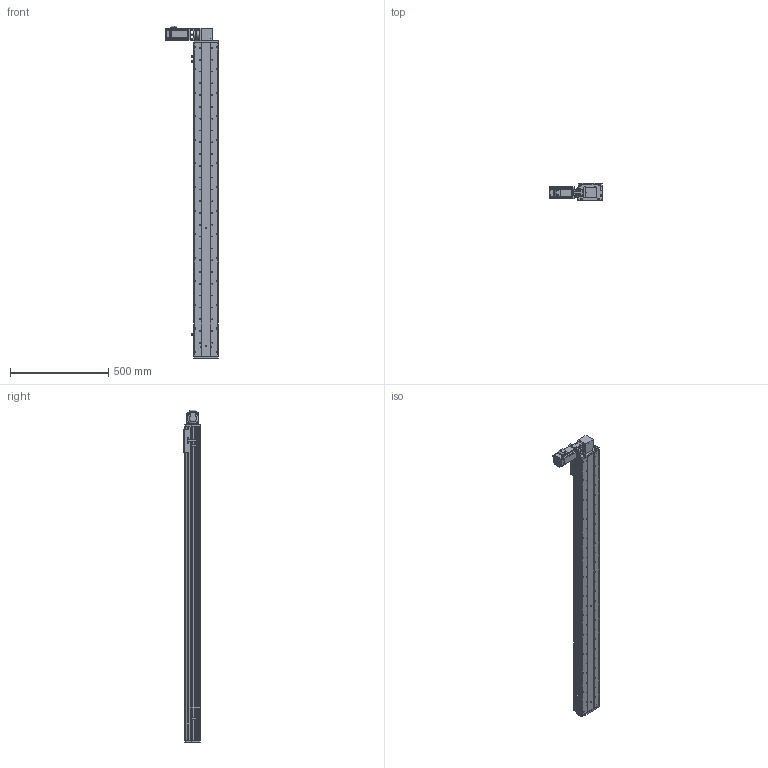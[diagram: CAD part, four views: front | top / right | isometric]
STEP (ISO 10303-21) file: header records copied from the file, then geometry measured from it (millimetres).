
FILE_DESCRIPTION (( 'STEP AP214' ), '1' );
FILE_NAME ('KSD125B-S1400-MRT-CM.STEP', '2017-08-07T07:45:01', ( '微软用户' ), ( '微软中国' ), 'SwSTEP 2.0', 'SolidWorks 2014', '' );
FILE_SCHEMA (( 'AUTOMOTIVE_DESIGN' ));
Length unit declared in the file: millimetre
Products named in the file (16): 100宽马达安装板同步带右; 前端板-125宽模组同步带; 125模组同步带-尾端板1; KSD125模组同步带-滑动座1; KSD125B-S1400-MRT-CM; KSD125模组1400行程同步带-防尘盖; 125模组1400行程同步带-底板; MHMD042G1CA_2_03; KSD125模组同步带-防撞垫2; CS-34X32-10X14; 100遵鎮湛假蚾啣1 ; 覜茼え68遵圉猾敕; U倰嫖萇假蚾璃; U倰嫖萇EEㄜSX672; KSD125模组同步带-防撞垫1; 100宽安装板同步带带电机座400W,86
Assembly tree (19 placements, depth 2):
  KSD125B-S1400-MRT-CM
    KSD125模组同步带-滑动座1
    125模组同步带-尾端板1
    前端板-125宽模组同步带
    100宽马达安装板同步带右
    100宽安装板同步带带电机座400W,86
    KSD125模组同步带-防撞垫1
    U倰嫖萇EEㄜSX672  x3
    U倰嫖萇假蚾璃  x3
    覜茼え68遵圉猾敕
    100遵鎮湛假蚾啣1 
    CS-34X32-10X14
    KSD125模组同步带-防撞垫2
    MHMD042G1CA_2_03
    125模组1400行程同步带-底板
    KSD125模组1400行程同步带-防尘盖
Bounding box: 269 x 86 x 1689 mm (x, y, z)
Volume: 4975568.2 mm3; surface area: 1625350.9 mm2
Topology: 18 solids, 21 shells, 1782 faces, 5122 edges, 3380 vertices
Faces by surface type: cylinder 965, plane 714, cone 81, bspline 22
Entity records: 63234 total; most frequent: CARTESIAN_POINT 12728, DIRECTION 9277, ORIENTED_EDGE 8764, EDGE_CURVE 4460, AXIS2_PLACEMENT_3D 3477, VERTEX_POINT 2972, VECTOR 2323, LINE 2323
